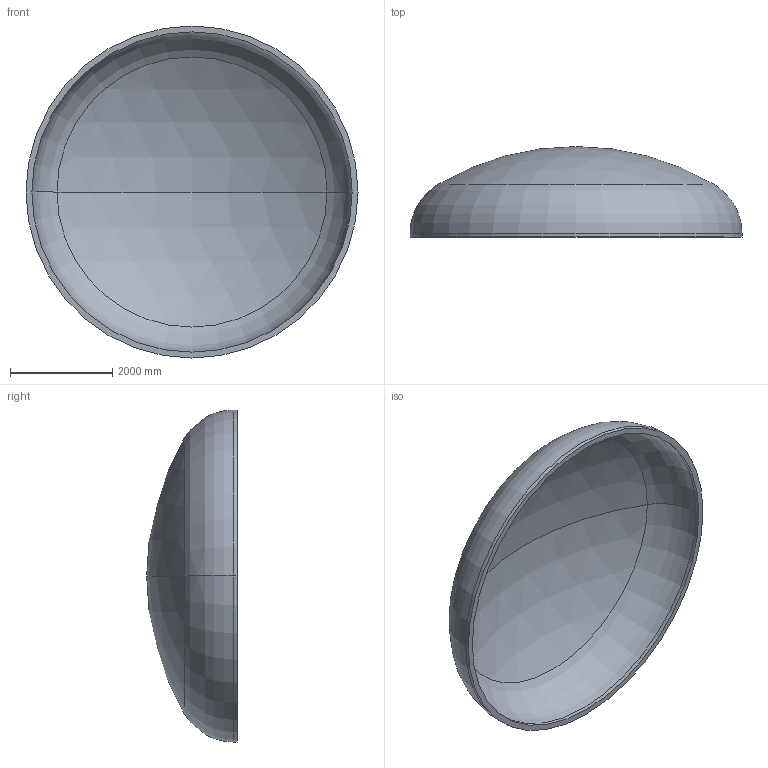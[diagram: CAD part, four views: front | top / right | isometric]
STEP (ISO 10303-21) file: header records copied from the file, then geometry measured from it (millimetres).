
FILE_DESCRIPTION (( 'STEP AP203' ), '1' );
FILE_NAME ('DIN 28013 Korbbogenform_-_Boden DIN 28013 - 6500 x 75 - I - s=114.step', '2016-07-04T10:44:26', ( '' ), ( '' ), 'SwSTEP 2.0', 'SolidWorks 2013', '' );
FILE_SCHEMA (( 'CONFIG_CONTROL_DESIGN' ));
Length unit declared in the file: millimetre
Products named in the file (1): DIN 28013 Korbbogenform_-_Boden DIN 28013 - 6500 x 75 - I - s=114
Bounding box: 6500 x 1772.72 x 6500 mm (x, y, z)
Volume: 5289961012 mm3; surface area: 95120609.4 mm2
Topology: 1 solids, 1 shells, 13 faces, 24 edges, 14 vertices
Faces by surface type: torus 4, cylinder 4, sphere 4, plane 1
Entity records: 407 total; most frequent: DIRECTION 72, CARTESIAN_POINT 52, ORIENTED_EDGE 48, AXIS2_PLACEMENT_3D 34, EDGE_CURVE 24, CIRCLE 20, VERTEX_POINT 14, EDGE_LOOP 14
